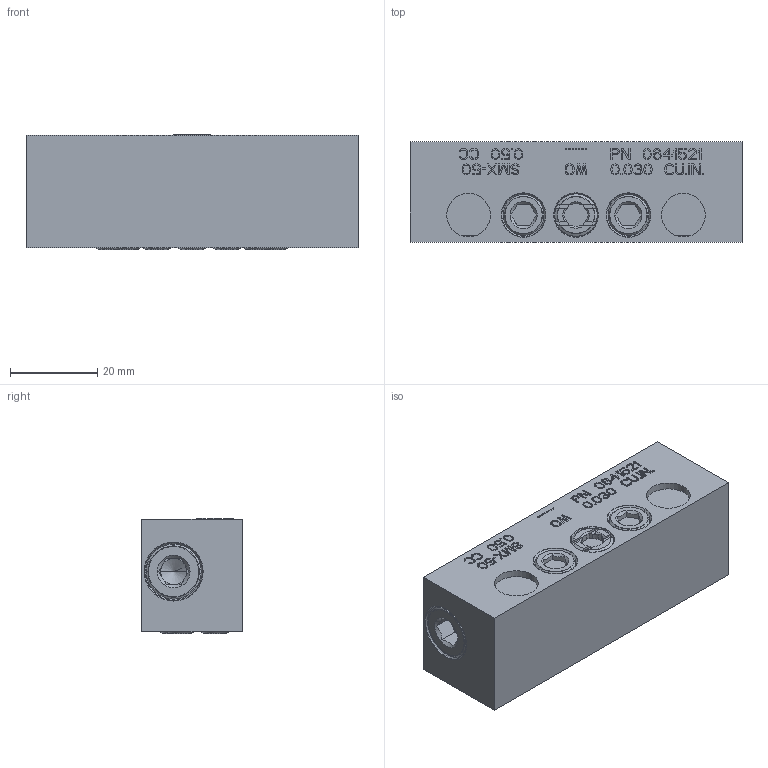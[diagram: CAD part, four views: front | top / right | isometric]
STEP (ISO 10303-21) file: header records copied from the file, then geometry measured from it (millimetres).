
FILE_DESCRIPTION((''),'2;1');
FILE_NAME('0641521_SMX_50','2023-07-21T09:51:14',('pietro.masciave'),(''),'CREO PARAMETRIC BY PTC INC, 2022281','CREO PARAMETRIC BY PTC INC, 2022281','');
FILE_SCHEMA(('CONFIG_CONTROL_DESIGN'));
Length unit declared in the file: millimetre
Products named in the file (1): 0641521_SMX_50
Bounding box: 76 x 23 x 26.33 mm (x, y, z)
Volume: 43965.4 mm3; surface area: 12639.1 mm2
Topology: 1 solids, 14 shells, 1322 faces, 3656 edges, 2429 vertices
Faces by surface type: plane 1148, cylinder 108, cone 44, torus 22
Entity records: 42572 total; most frequent: CARTESIAN_POINT 8535, ORIENTED_EDGE 7264, DIRECTION 6589, EDGE_CURVE 3652, VECTOR 3223, LINE 3223, VERTEX_POINT 2429, AXIS2_PLACEMENT_3D 1683
